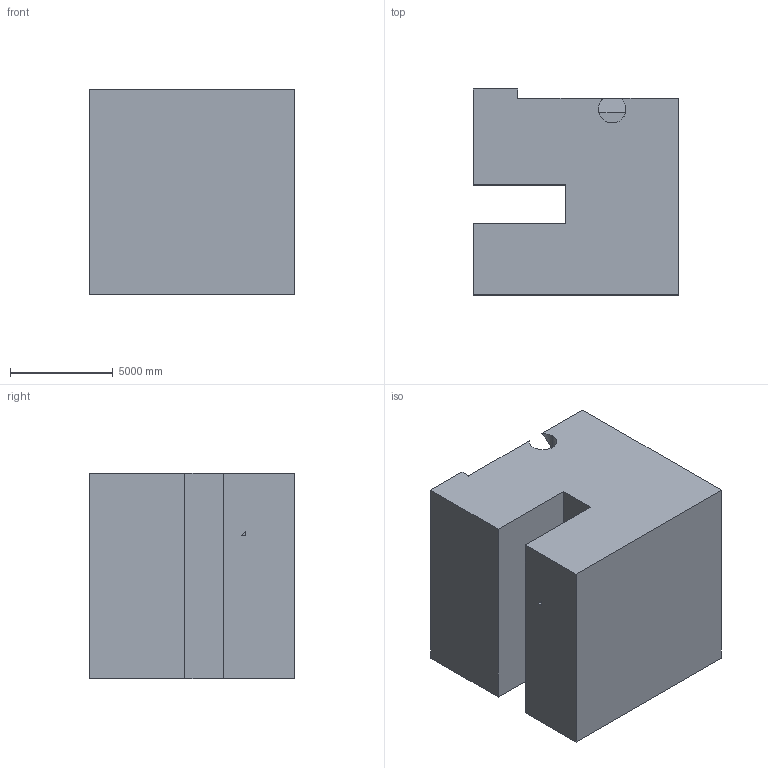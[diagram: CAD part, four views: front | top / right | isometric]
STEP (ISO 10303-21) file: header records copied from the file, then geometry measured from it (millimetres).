
FILE_DESCRIPTION (( 'STEP AP203' ), '1' );
FILE_NAME ('138.STEP', '2022-09-05T15:41:20', ( 'user' ), ( '' ), 'SwSTEP 2.0', 'SolidWorks 2021', '' );
FILE_SCHEMA (( 'CONFIG_CONTROL_DESIGN' ));
Length unit declared in the file: centimetre
Products named in the file (1): 138
Bounding box: 10000 x 10000 x 10000 mm (x, y, z)
Volume: 772656516348.2 mm3; surface area: 679519920.6 mm2
Topology: 1 solids, 1 shells, 21 faces, 54 edges, 36 vertices
Faces by surface type: plane 18, cylinder 3
Entity records: 709 total; most frequent: CARTESIAN_POINT 124, ORIENTED_EDGE 108, DIRECTION 98, EDGE_CURVE 54, LINE 46, VECTOR 46, VERTEX_POINT 36, AXIS2_PLACEMENT_3D 26
